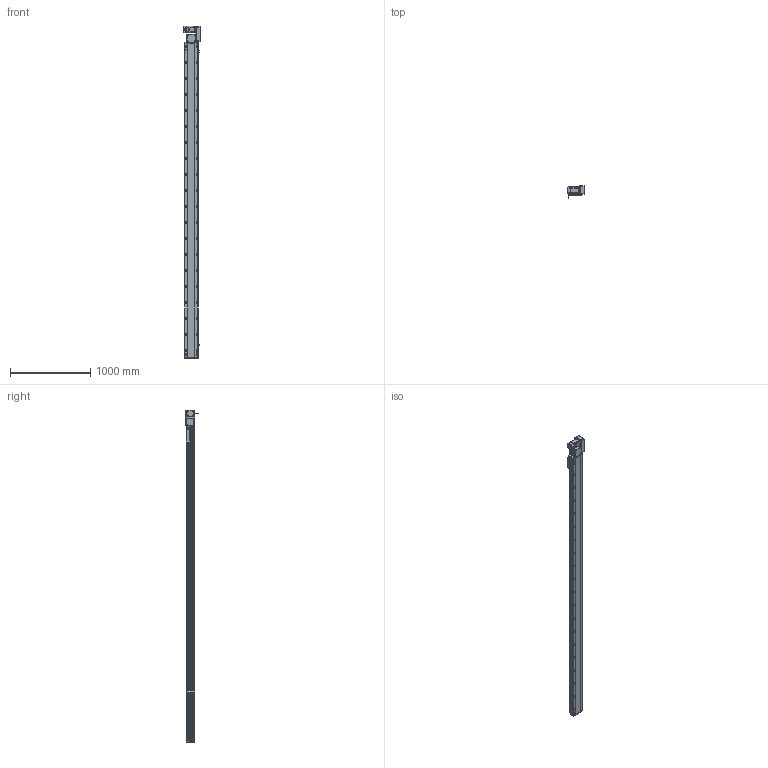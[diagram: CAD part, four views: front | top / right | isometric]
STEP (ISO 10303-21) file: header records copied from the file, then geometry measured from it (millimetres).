
FILE_DESCRIPTION (( 'STEP AP214' ), '1' );
FILE_NAME ('RTB17S-XX-3650-R-M75-C4.STEP', '2025-12-12T01:54:38', ( '' ), ( '' ), 'SwSTEP 2.0', 'SolidWorks 2018', '' );
FILE_SCHEMA (( 'AUTOMOTIVE_DESIGN' ));
Length unit declared in the file: millimetre
Products named in the file (15): RTB17S-R-々湍釱蚾饜-750W^RTB17S-XX-XX-R-M75-C4; 750W萇儂^RTB17S-XX-XX-R-M75-C4; RTB22S-GY-008-M75--萇儂啣^RTB17S-R-々湍釱蚾饜-750W_RTB17S-XX-XX-R-M75-C4; RTH13-BL-012覜茼え俋离^RTB17S-賑釱_RTB17S-XX-XX-R-M75-C4; RTB22S-GY-018P^RTB17S-R-々湍釱蚾饜-750W_RTB17S-XX-XX-R-M75-C4; EE672^RTB17S-XX-XX-R-M75-C4; RTB17-R-011菁釱^RTB17S-XX-XX-R-M75-C4; RTB17S-賑釱^RTB17S-XX-XX-R-M75-C4; RTB17S-L-004-賑釱^RTB17S-賑釱_RTB17S-XX-XX-R-M75-C4; RTB17S-XX-3650-R-M75-C4; RTB17S-L-001-耜醱啣^RTB17S-XX-XX-R-M75-C4; RTB17S-L-007奻裔^RTB17S-XX-XX-R-M75-C4; RTB22S-GY-005P^RTB17S-R-々湍釱蚾饜-750W_RTB17S-XX-XX-R-M75-C4; RTB22S-GY-017P^RTB17S-R-々湍釱蚾饜-750W_RTB17S-XX-XX-R-M75-C4; RTB17S-L-014-T20-P75--々湍釱^RTB17S-R-々湍釱蚾饜-750W_RTB17S-XX-XX-R-M75-C4
Assembly tree (17 placements, depth 3):
  RTB17S-XX-3650-R-M75-C4
    RTB17-R-011菁釱^RTB17S-XX-XX-R-M75-C4
    EE672^RTB17S-XX-XX-R-M75-C4  x3
    RTB17S-L-001-耜醱啣^RTB17S-XX-XX-R-M75-C4
    RTB17S-賑釱^RTB17S-XX-XX-R-M75-C4
      RTB17S-L-004-賑釱^RTB17S-賑釱_RTB17S-XX-XX-R-M75-C4
      RTH13-BL-012覜茼え俋离^RTB17S-賑釱_RTB17S-XX-XX-R-M75-C4
    RTB17S-L-007奻裔^RTB17S-XX-XX-R-M75-C4
    750W萇儂^RTB17S-XX-XX-R-M75-C4
    RTB17S-R-々湍釱蚾饜-750W^RTB17S-XX-XX-R-M75-C4
      RTB17S-L-014-T20-P75--々湍釱^RTB17S-R-々湍釱蚾饜-750W_RTB17S-XX-XX-R-M75-C4
      RTB22S-GY-005P^RTB17S-R-々湍釱蚾饜-750W_RTB17S-XX-XX-R-M75-C4
      RTB22S-GY-017P^RTB17S-R-々湍釱蚾饜-750W_RTB17S-XX-XX-R-M75-C4  x2
      RTB22S-GY-008-M75--萇儂啣^RTB17S-R-々湍釱蚾饜-750W_RTB17S-XX-XX-R-M75-C4
      RTB22S-GY-018P^RTB17S-R-々湍釱蚾饜-750W_RTB17S-XX-XX-R-M75-C4
Bounding box: 207.4 x 152.7 x 4149 mm (x, y, z)
Volume: 28761467.8 mm3; surface area: 5327790.1 mm2
Topology: 17 solids, 17 shells, 2313 faces, 6538 edges, 4238 vertices
Faces by surface type: plane 998, cylinder 899, bspline 294, cone 110, sphere 8, torus 4
Entity records: 68854 total; most frequent: CARTESIAN_POINT 20602, ORIENTED_EDGE 9920, DIRECTION 9122, EDGE_CURVE 4960, AXIS2_PLACEMENT_3D 3258, VERTEX_POINT 3242, LINE 2606, VECTOR 2606
